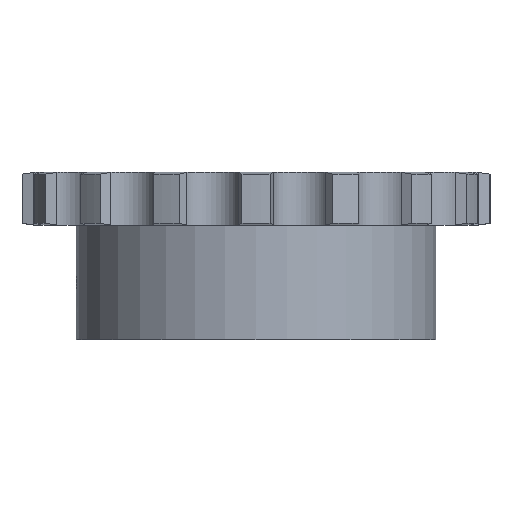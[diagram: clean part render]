
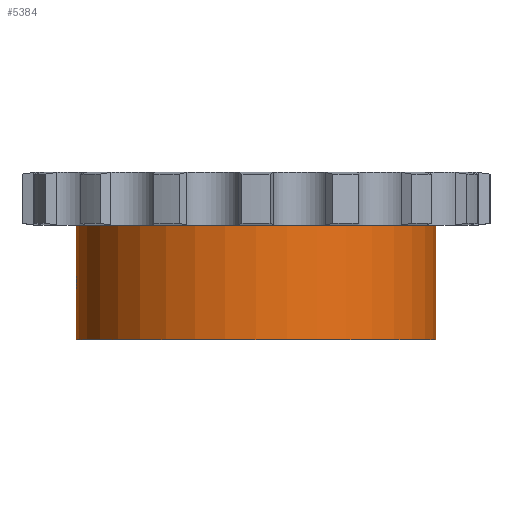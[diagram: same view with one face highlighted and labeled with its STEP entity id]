
A CAD part, front view. The second image highlights one B-rep face of the part: STEP entity #5384.
In plain terms, the highlighted cylindrical face has radius 37.5 mm (diameter 75 mm), a partial arc.
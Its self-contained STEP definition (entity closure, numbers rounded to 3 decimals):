
#1039=CARTESIAN_POINT('',(0.,0.,-5.55));
#1040=DIRECTION('',(0.,0.,1.));
#1041=DIRECTION('',(-1.,0.,0.));
#1042=AXIS2_PLACEMENT_3D('',#1039,#1040,#1041);
#2567=CARTESIAN_POINT('',(-37.5,0.,
-15.5));
#2589=DIRECTION('',(0.,0.,1.));
#2590=VECTOR('',#2589,23.9);
#2591=CARTESIAN_POINT('',(37.5,0.,-29.45));
#2592=LINE('',#2591,#2590);
#2706=CARTESIAN_POINT('',(-37.5,0.,
-15.5));
#2707=CARTESIAN_POINT('',(-37.5,-0.105,
-15.5));
#2708=CARTESIAN_POINT('',(-37.499,-0.313,
-15.516));
#2709=CARTESIAN_POINT('',(-37.495,-0.627,
-15.59));
#2710=CARTESIAN_POINT('',(-37.489,-0.925,
-15.713));
#2711=CARTESIAN_POINT('',(-37.481,-1.197,
-15.879));
#2712=CARTESIAN_POINT('',(-37.473,-1.438,
-16.084));
#2713=CARTESIAN_POINT('',(-37.464,-1.644,
-16.325));
#2714=CARTESIAN_POINT('',(-37.456,-1.811,
-16.597));
#2715=CARTESIAN_POINT('',(-37.45,-1.932,
-16.891));
#2716=CARTESIAN_POINT('',(-37.446,-2.004,
-17.197));
#2717=CARTESIAN_POINT('',(-37.446,-2.019,
-17.399));
#2718=CARTESIAN_POINT('',(-37.446,-2.019,
-17.5));
#2723=DIRECTION('',(0.,0.,1.));
#2724=VECTOR('',#2723,9.95);
#2725=CARTESIAN_POINT('',(-37.5,0.,
-15.5));
#2726=LINE('',#2725,#2724);
#2730=DIRECTION('',(0.,0.,1.));
#2731=VECTOR('',#2730,9.95);
#2732=CARTESIAN_POINT('',(-37.5,0.,-29.45));
#2733=LINE('',#2732,#2731);
#2737=CARTESIAN_POINT('',(-37.446,-2.019,
-17.5));
#2738=CARTESIAN_POINT('',(-37.446,-2.019,
-17.601));
#2739=CARTESIAN_POINT('',(-37.446,-2.004,
-17.802));
#2740=CARTESIAN_POINT('',(-37.45,-1.932,
-18.108));
#2741=CARTESIAN_POINT('',(-37.456,-1.811,
-18.402));
#2742=CARTESIAN_POINT('',(-37.464,-1.645,
-18.674));
#2743=CARTESIAN_POINT('',(-37.473,-1.438,
-18.915));
#2744=CARTESIAN_POINT('',(-37.481,-1.198,
-19.12));
#2745=CARTESIAN_POINT('',(-37.489,-0.926,
-19.287));
#2746=CARTESIAN_POINT('',(-37.495,-0.628,
-19.41));
#2747=CARTESIAN_POINT('',(-37.499,-0.314,
-19.484));
#2748=CARTESIAN_POINT('',(-37.5,-0.105,
-19.5));
#2749=CARTESIAN_POINT('',(-37.5,0.,
-19.5));
#2762=CARTESIAN_POINT('',(0.,0.,-29.45));
#2763=DIRECTION('',(0.,0.,-1.));
#2764=DIRECTION('',(1.,0.,0.));
#2765=AXIS2_PLACEMENT_3D('',#2762,#2763,#2764);
#3111=CARTESIAN_POINT('',(-37.5,0.,-29.45));
#3112=CARTESIAN_POINT('',(37.5,0.,-29.45));
#3113=VERTEX_POINT('',#3111);
#3114=VERTEX_POINT('',#3112);
#3115=CARTESIAN_POINT('',(37.5,0.,-5.55));
#3116=VERTEX_POINT('',#3115);
#3117=CARTESIAN_POINT('',(-37.5,0.,-5.55));
#3118=VERTEX_POINT('',#3117);
#3276=VERTEX_POINT('',#2567);
#3279=VERTEX_POINT('',#2718);
#3281=VERTEX_POINT('',#2749);
#5368=CARTESIAN_POINT('',(0.,0.,5.55));
#5369=DIRECTION('',(0.,0.,1.));
#5370=DIRECTION('',(1.,0.,0.));
#5371=AXIS2_PLACEMENT_3D('',#5368,#5369,#5370);
#5372=CYLINDRICAL_SURFACE('',#5371,37.5);
#5373=ORIENTED_EDGE('',*,*,#5358,.F.);
#5374=ORIENTED_EDGE('',*,*,#4997,.T.);
#5375=ORIENTED_EDGE('',*,*,#4388,.T.);
#5376=ORIENTED_EDGE('',*,*,#4994,.F.);
#5378=ORIENTED_EDGE('',*,*,#5377,.T.);
#5379=ORIENTED_EDGE('',*,*,#4990,.T.);
#5381=ORIENTED_EDGE('',*,*,#5380,.F.);
#5382=EDGE_LOOP('',(#5373,#5374,#5375,#5376,#5378,#5379,#5381));
#5383=FACE_OUTER_BOUND('',#5382,.F.);
#5384=ADVANCED_FACE('',(#5383),#5372,.T.);
#1043=CIRCLE('',#1042,37.5);
#2719=B_SPLINE_CURVE_WITH_KNOTS('',3,(#2706,#2707,#2708,#2709,#2710,#2711,#2712,
#2713,#2714,#2715,#2716,#2717,#2718),.UNSPECIFIED.,.F.,.F.,(4,1,1,1,1,1,1,1,1,1,
4),(0.,0.1,0.2,0.3,0.4,0.5,0.6,0.7,0.8,0.9,1.),
.UNSPECIFIED.);
#2750=B_SPLINE_CURVE_WITH_KNOTS('',3,(#2737,#2738,#2739,#2740,#2741,#2742,#2743,
#2744,#2745,#2746,#2747,#2748,#2749),.UNSPECIFIED.,.F.,.F.,(4,1,1,1,1,1,1,1,1,1,
4),(0.,0.1,0.2,0.3,0.4,0.5,0.6,0.7,0.8,0.9,1.),
.UNSPECIFIED.);
#2766=CIRCLE('',#2765,37.5);
#4388=EDGE_CURVE('',#3118,#3116,#1043,.T.);
#4990=EDGE_CURVE('',#3113,#3281,#2733,.T.);
#4994=EDGE_CURVE('',#3114,#3116,#2592,.T.);
#4997=EDGE_CURVE('',#3276,#3118,#2726,.T.);
#5358=EDGE_CURVE('',#3276,#3279,#2719,.T.);
#5377=EDGE_CURVE('',#3114,#3113,#2766,.T.);
#5380=EDGE_CURVE('',#3279,#3281,#2750,.T.);
